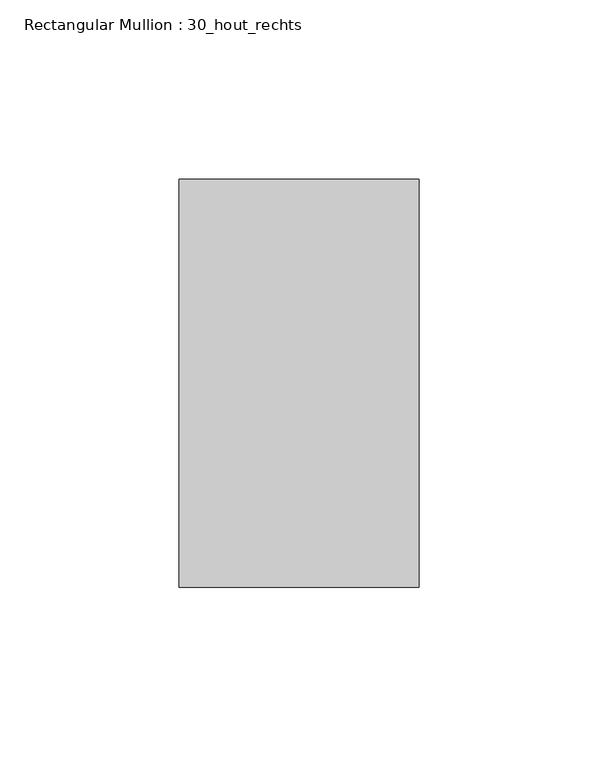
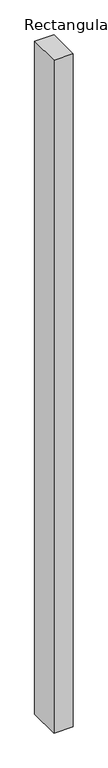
"""IFC4 building model written with IfcOpenShell, lengths in millimetres: member geometry, Rectangular Mullion : 30_hout_rechts."""

from ifc_helpers import new_model, si_unit, frame, origin, place, context, project, spatial, polyline, outline, extrude, source, transform, mapped, element, save


def rectangular_mullion_30_hout_rechts_13283482(model_context):
    return source(origin(), model_context, "Body", "SweptSolid", [
        extrude(outline(polyline([(67.0, 57.0), (67.0, -57.0), (0.0, -57.0), (0.0, 57.0), (67.0, 57.0)])), frame((0.0, 0.0, -2449.6666667), z_axis=(0.0, 0.0, 1.0), x_axis=(1.0, 0.0, 0.0)), (0.0, 0.0, 1.0), 2449.6666667),
    ])


if __name__ == "__main__":
    model = new_model("IFC4")
    model_context = context("Model", 3, world=origin())
    ifc_project = project(units=[si_unit("LENGTHUNIT", "METRE", prefix="MILLI")], contexts=[model_context])
    site = spatial("IfcSite", under=ifc_project)
    building = spatial("IfcBuilding", under=site)
    placement = place(None, origin())
    rectangular_mullion_30_hout_rechts_shape = rectangular_mullion_30_hout_rechts_13283482(model_context)
    element("IfcMember", 1, ObjectType="Rectangular Mullion : 30_hout_rechts", at=placement, inside=building, context=model_context, shape_type="MappedRepresentation", body=[
        mapped(rectangular_mullion_30_hout_rechts_shape, transform((0.0, 0.0, 0.0), x_axis=(1.0, 0.0, 0.0), y_axis=(0.0, 1.0, 0.0), z_axis=(0.0, 0.0, 1.0))),
    ])
    save(model, "model.ifc")
